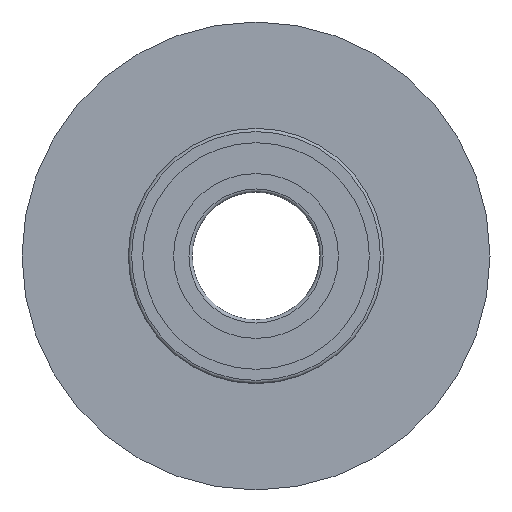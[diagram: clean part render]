
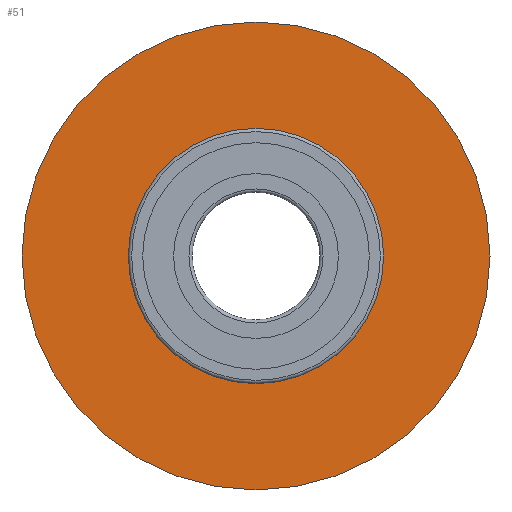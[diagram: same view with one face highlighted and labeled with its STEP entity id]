
A CAD part, left-side view. The second image highlights one B-rep face of the part: STEP entity #51.
In plain terms, the highlighted planar face has unit normal (-1, 0, 0).
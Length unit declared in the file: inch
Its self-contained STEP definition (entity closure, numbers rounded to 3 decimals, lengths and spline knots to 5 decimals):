
#24=CARTESIAN_POINT('',(113.41139,123.47152,0.));
#25=VERTEX_POINT('',#24);
#26=CARTESIAN_POINT('',(113.41139,112.47152,0.));
#27=DIRECTION('',(-1.,0.,0.));
#28=DIRECTION('',(0.,1.,0.));
#29=AXIS2_PLACEMENT_3D('',#26,#27,#28);
#30=CIRCLE('',#29,11.);
#31=EDGE_CURVE('',#25,#25,#30,.T.);
#32=ORIENTED_EDGE('',*,*,#31,.T.);
#33=EDGE_LOOP('',(#32));
#34=FACE_OUTER_BOUND('',#33,.T.);
#35=CARTESIAN_POINT('',(113.41139,118.47152,0.));
#36=VERTEX_POINT('',#35);
#37=CARTESIAN_POINT('',(113.41139,112.47152,0.));
#38=DIRECTION('',(-1.,0.,0.));
#39=DIRECTION('',(0.,1.,0.));
#40=AXIS2_PLACEMENT_3D('',#37,#38,#39);
#41=CIRCLE('',#40,6.);
#42=EDGE_CURVE('',#36,#36,#41,.T.);
#43=ORIENTED_EDGE('',*,*,#42,.F.);
#44=EDGE_LOOP('',(#43));
#45=FACE_BOUND('',#44,.T.);
#46=CARTESIAN_POINT('',(113.41139,120.97152,0.));
#47=DIRECTION('',(-1.,0.,0.));
#48=DIRECTION('',(0.,1.,0.));
#49=AXIS2_PLACEMENT_3D('',#46,#47,#48);
#50=PLANE('',#49);
#51=ADVANCED_FACE('',(#34,#45),#50,.T.);
